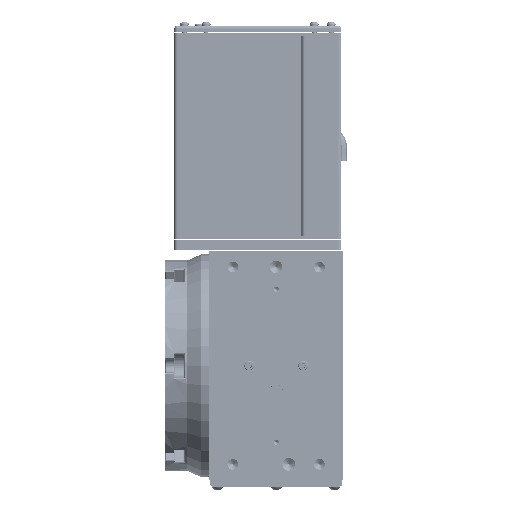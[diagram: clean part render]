
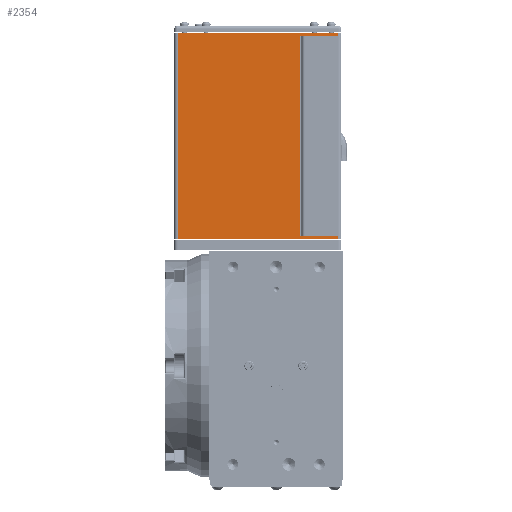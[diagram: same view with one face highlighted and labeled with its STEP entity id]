
A CAD part, front view. The second image highlights one B-rep face of the part: STEP entity #2354.
In plain terms, the highlighted planar face has unit normal (0, -1, 0).
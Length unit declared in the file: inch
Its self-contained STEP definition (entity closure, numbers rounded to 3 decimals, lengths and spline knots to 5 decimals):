
#654 = EDGE_CURVE ( 'NONE', #74147, #92037, #10981, .T. ) ;
#1645 = EDGE_CURVE ( 'NONE', #14952, #12431, #66833, .T. ) ;
#2354 = ADVANCED_FACE ( 'NONE', ( #111972 ), #103378, .F. ) ;
#2894 = CARTESIAN_POINT ( 'NONE',  ( 4.79, -0.1046, 0.1345 ) ) ;
#3485 = LINE ( 'NONE', #65073, #31034 ) ;
#4917 = CARTESIAN_POINT ( 'NONE',  ( 4.79, -0.1046, -7.9773 ) ) ;
#5505 = DIRECTION ( 'NONE',  ( -1., 0., 0. ) ) ;
#6408 = VECTOR ( 'NONE', #5505, 39.37008 ) ;
#6752 = DIRECTION ( 'NONE',  ( 0., 0., 1. ) ) ;
#9206 = EDGE_CURVE ( 'NONE', #104153, #76481, #18844, .T. ) ;
#10981 = LINE ( 'NONE', #2894, #43721 ) ;
#11155 = ORIENTED_EDGE ( 'NONE', *, *, #97376, .T. ) ;
#12431 = VERTEX_POINT ( 'NONE', #94751 ) ;
#13190 = CARTESIAN_POINT ( 'NONE',  ( 4.79, -0.1046, 0. ) ) ;
#14521 = CARTESIAN_POINT ( 'NONE',  ( 4.7914, -0.1046, 0. ) ) ;
#14952 = VERTEX_POINT ( 'NONE', #4917 ) ;
#15213 = DIRECTION ( 'NONE',  ( 1., 0., 0. ) ) ;
#15747 = EDGE_CURVE ( 'NONE', #55829, #92037, #59197, .T. ) ;
#18844 = LINE ( 'NONE', #106913, #91149 ) ;
#21455 = EDGE_CURVE ( 'NONE', #104153, #113424, #103681, .T. ) ;
#24527 = CARTESIAN_POINT ( 'NONE',  ( -1.645, -0.1046, 0.1345 ) ) ;
#25342 = EDGE_LOOP ( 'NONE', ( #100455, #83788, #109501, #108298, #73036, #64205, #44858, #11155, #65633, #66796, #108525, #102042 ) ) ;
#31034 = VECTOR ( 'NONE', #91004, 39.37008 ) ;
#31547 = LINE ( 'NONE', #57990, #99491 ) ;
#33453 = CARTESIAN_POINT ( 'NONE',  ( 0., -0.1046, 0. ) ) ;
#35191 = VECTOR ( 'NONE', #113891, 39.37008 ) ;
#40155 = EDGE_CURVE ( 'NONE', #105083, #107184, #111390, .T. ) ;
#40411 = CARTESIAN_POINT ( 'NONE',  ( 4.79, -0.1046, -7.8428 ) ) ;
#41314 = CARTESIAN_POINT ( 'NONE',  ( 4.79, -0.1046, -7.9773 ) ) ;
#43721 = VECTOR ( 'NONE', #81823, 39.37008 ) ;
#44858 = ORIENTED_EDGE ( 'NONE', *, *, #1645, .F. ) ;
#51009 = DIRECTION ( 'NONE',  ( 0., 1., 0. ) ) ;
#52137 = VERTEX_POINT ( 'NONE', #14521 ) ;
#52393 = CARTESIAN_POINT ( 'NONE',  ( 4.79, -0.1046, 0.1345 ) ) ;
#53122 = VECTOR ( 'NONE', #6752, 39.37008 ) ;
#55829 = VERTEX_POINT ( 'NONE', #73857 ) ;
#57821 = CARTESIAN_POINT ( 'NONE',  ( -1.645, -0.1046, 0. ) ) ;
#57990 = CARTESIAN_POINT ( 'NONE',  ( 4.7914, -0.1046, -7.8428 ) ) ;
#59197 = LINE ( 'NONE', #101274, #83203 ) ;
#61183 = CARTESIAN_POINT ( 'NONE',  ( -1.515, -0.1046, -7.8428 ) ) ;
#62246 = CARTESIAN_POINT ( 'NONE',  ( 0., -0.1046, -7.8428 ) ) ;
#64205 = ORIENTED_EDGE ( 'NONE', *, *, #88170, .T. ) ;
#65073 = CARTESIAN_POINT ( 'NONE',  ( 0., -0.1046, 0. ) ) ;
#65633 = ORIENTED_EDGE ( 'NONE', *, *, #40155, .F. ) ;
#66796 = ORIENTED_EDGE ( 'NONE', *, *, #88385, .T. ) ;
#66833 = LINE ( 'NONE', #83565, #89529 ) ;
#71666 = EDGE_CURVE ( 'NONE', #95052, #113424, #86035, .T. ) ;
#73036 = ORIENTED_EDGE ( 'NONE', *, *, #9206, .T. ) ;
#73857 = CARTESIAN_POINT ( 'NONE',  ( -1.515, -0.1046, 0.1345 ) ) ;
#74147 = VERTEX_POINT ( 'NONE', #13190 ) ;
#74231 = DIRECTION ( 'NONE',  ( 1., 0., 0. ) ) ;
#74255 = VECTOR ( 'NONE', #110596, 39.37008 ) ;
#76481 = VERTEX_POINT ( 'NONE', #61183 ) ;
#78815 = LINE ( 'NONE', #86898, #35191 ) ;
#81823 = DIRECTION ( 'NONE',  ( 0., 0., 1. ) ) ;
#83203 = VECTOR ( 'NONE', #74231, 39.37008 ) ;
#83565 = CARTESIAN_POINT ( 'NONE',  ( 4.92, -0.1046, -7.9773 ) ) ;
#83788 = ORIENTED_EDGE ( 'NONE', *, *, #94175, .T. ) ;
#83957 = VECTOR ( 'NONE', #104099, 39.37008 ) ;
#86035 = LINE ( 'NONE', #57821, #95977 ) ;
#86898 = CARTESIAN_POINT ( 'NONE',  ( -1.515, -0.1046, -7.9773 ) ) ;
#87095 = CARTESIAN_POINT ( 'NONE',  ( 4.7914, -0.1046, -7.8428 ) ) ;
#88132 = AXIS2_PLACEMENT_3D ( 'NONE', #24527, #51009, #95266 ) ;
#88170 = EDGE_CURVE ( 'NONE', #76481, #12431, #78815, .T. ) ;
#88385 = EDGE_CURVE ( 'NONE', #105083, #52137, #31547, .T. ) ;
#89529 = VECTOR ( 'NONE', #109426, 39.37008 ) ;
#91004 = DIRECTION ( 'NONE',  ( 1., 0., 0. ) ) ;
#91149 = VECTOR ( 'NONE', #107475, 39.37008 ) ;
#92037 = VERTEX_POINT ( 'NONE', #52393 ) ;
#93091 = DIRECTION ( 'NONE',  ( 0., 0., 1. ) ) ;
#94175 = EDGE_CURVE ( 'NONE', #55829, #95052, #110470, .T. ) ;
#94751 = CARTESIAN_POINT ( 'NONE',  ( -1.515, -0.1046, -7.9773 ) ) ;
#94775 = LINE ( 'NONE', #41314, #53122 ) ;
#95052 = VERTEX_POINT ( 'NONE', #102156 ) ;
#95266 = DIRECTION ( 'NONE',  ( -1., 0., 0. ) ) ;
#95977 = VECTOR ( 'NONE', #15213, 39.37008 ) ;
#96873 = EDGE_CURVE ( 'NONE', #74147, #52137, #3485, .T. ) ;
#97376 = EDGE_CURVE ( 'NONE', #14952, #107184, #94775, .T. ) ;
#99491 = VECTOR ( 'NONE', #93091, 39.37008 ) ;
#100455 = ORIENTED_EDGE ( 'NONE', *, *, #15747, .F. ) ;
#101274 = CARTESIAN_POINT ( 'NONE',  ( -1.645, -0.1046, 0.1345 ) ) ;
#102042 = ORIENTED_EDGE ( 'NONE', *, *, #654, .T. ) ;
#102156 = CARTESIAN_POINT ( 'NONE',  ( -1.515, -0.1046, 0. ) ) ;
#102984 = CARTESIAN_POINT ( 'NONE',  ( -1.515, -0.1046, 0.1345 ) ) ;
#103378 = PLANE ( 'NONE',  #88132 ) ;
#103681 = LINE ( 'NONE', #33453, #74255 ) ;
#104099 = DIRECTION ( 'NONE',  ( 0., 0., -1. ) ) ;
#104153 = VERTEX_POINT ( 'NONE', #62246 ) ;
#105083 = VERTEX_POINT ( 'NONE', #87095 ) ;
#106913 = CARTESIAN_POINT ( 'NONE',  ( 4.92, -0.1046, -7.8428 ) ) ;
#107184 = VERTEX_POINT ( 'NONE', #40411 ) ;
#107475 = DIRECTION ( 'NONE',  ( -1., 0., 0. ) ) ;
#108298 = ORIENTED_EDGE ( 'NONE', *, *, #21455, .F. ) ;
#108525 = ORIENTED_EDGE ( 'NONE', *, *, #96873, .F. ) ;
#109145 = CARTESIAN_POINT ( 'NONE',  ( 0., -0.1046, -7.8428 ) ) ;
#109426 = DIRECTION ( 'NONE',  ( -1., 0., 0. ) ) ;
#109501 = ORIENTED_EDGE ( 'NONE', *, *, #71666, .T. ) ;
#109733 = CARTESIAN_POINT ( 'NONE',  ( 0., -0.1046, 0. ) ) ;
#110470 = LINE ( 'NONE', #102984, #83957 ) ;
#110596 = DIRECTION ( 'NONE',  ( 0., 0., 1. ) ) ;
#111390 = LINE ( 'NONE', #109145, #6408 ) ;
#111972 = FACE_OUTER_BOUND ( 'NONE', #25342, .T. ) ;
#113424 = VERTEX_POINT ( 'NONE', #109733 ) ;
#113891 = DIRECTION ( 'NONE',  ( 0., 0., -1. ) ) ;
